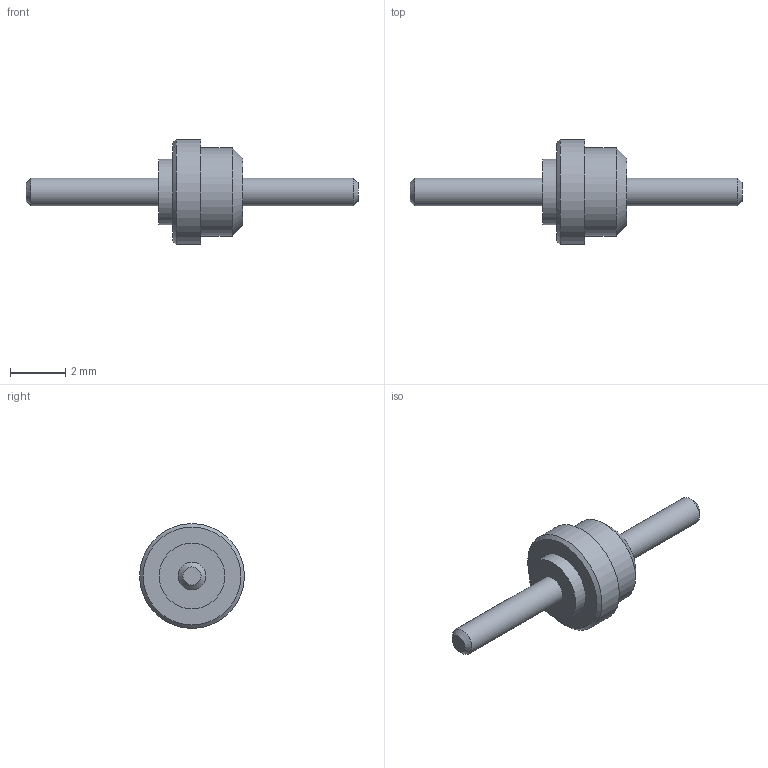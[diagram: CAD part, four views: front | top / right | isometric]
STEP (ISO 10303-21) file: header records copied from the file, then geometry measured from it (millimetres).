
FILE_DESCRIPTION(/* description */ (''),/* implementation_level */ '2;1');
FILE_NAME(/* name */ '\\Snap1\dwgs\Customer 3D Models\571\571-4161-01 Customer model.stp',/* time_stamp */ '2017-01-06T10:32:29+00:00',/* author */ ('paulk'),/* organization */ (''),/* preprocessor_version */ 'ST-DEVELOPER v15.2',/* originating_system */ 'Autodesk Inventor 2014',/* authorisation */ '');
FILE_SCHEMA (('CONFIG_CONTROL_DESIGN'));
Length unit declared in the file: millimetre
Products named in the file (1): 571-4161-01 Customer model
Bounding box: 12.06 x 3.81 x 3.81 mm (x, y, z)
Volume: 32.6 mm3; surface area: 78.8 mm2
Topology: 1 solids, 1 shells, 15 faces, 24 edges, 15 vertices
Faces by surface type: plane 6, cylinder 5, cone 4
Full cylindrical faces by diameter (mm): 1.016 x2, 2.388 x1, 3.2 x1, 3.81 x1
Entity records: 344 total; most frequent: DIRECTION 60, CARTESIAN_POINT 44, AXIS2_PLACEMENT_3D 30, EDGE_LOOP 28, ORIENTED_EDGE 28, FACE_BOUND 17, STYLED_ITEM 16, ADVANCED_FACE 15
